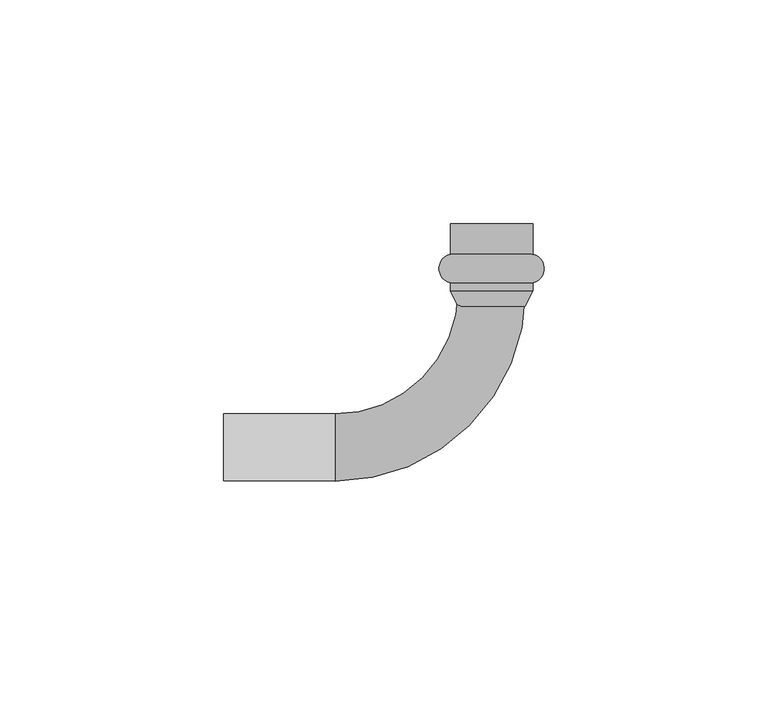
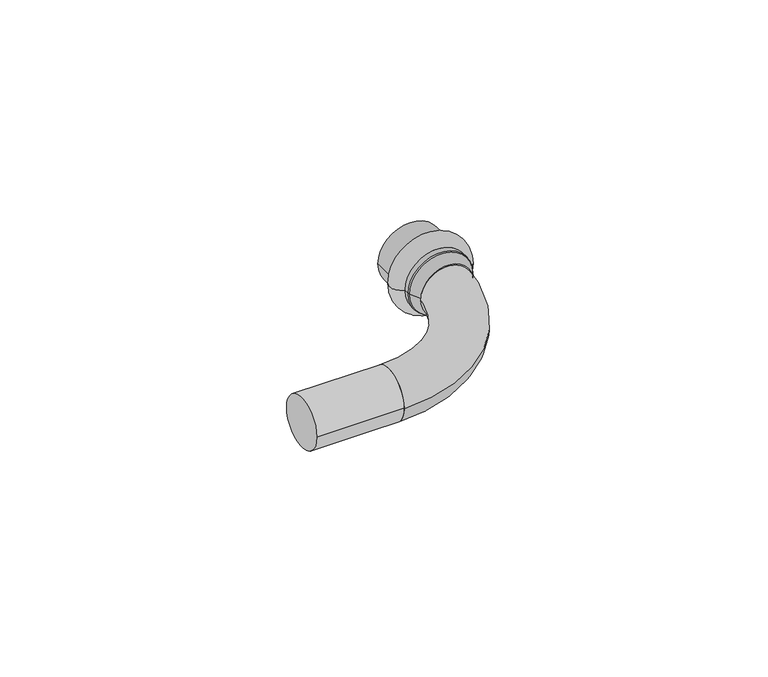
"""IFC4 building model written with IfcOpenShell, lengths in millimetres: pipe fitting geometry, VALTEC_VTi.950.I_Угольник 90° (раструб–труба) нержавеющая сталь : VTi.950.I."""

from ifc_helpers import new_model, si_unit, point, frame, origin, origin_2d, place, context, project, spatial, polyline, circle_curve, ellipse_curve, trimmed, segment, composite_curve, outline, extrude, source, transform, mapped, element, save
from ifc_brep_helpers import plane_surface, cylinder_surface, revolved_surface, advanced_brep


def pipe_fitting_c6080890(model_context):
    return source(origin(), model_context, "Body", "SolidModel", [
        advanced_brep(
        [(-9.25, 43.1122777, 0.0), (9.25, 43.1122777, 0.0), (9.25, 36.7877223, 0.0), (-9.25, 36.7877223, 0.0), (-9.25, 50.0, 0.0), (9.25, 50.0, 0.0), (-7.5, 50.0, 0.0), (7.5, 50.0, 0.0), (-7.5, 35.0, 0.0), (7.5, 35.0, 0.0), (-9.25, 35.0, 0.0), (9.25, 35.0, 0.0)],
        [
            (0, 1, circle_curve(frame((0.0, 43.1122777, 0.0), z_axis=(0.0, -1.0, 0.0), x_axis=(1.0, 0.0, 0.0)), 9.25)),
            (1, 2, circle_curve(frame((8.5, 39.95, 0.0), z_axis=(0.0, 0.0, -1.0), x_axis=(0.0, -1.0, 0.0)), 3.25)),
            (2, 3, circle_curve(frame((0.0, 36.7877223, 0.0), z_axis=(0.0, 1.0, 0.0), x_axis=(1.0, 0.0, 0.0)), 9.25)),
            (3, 0, circle_curve(frame((-8.5, 39.95, 0.0), z_axis=(0.0, 0.0, -1.0), x_axis=(0.0, -1.0, 0.0)), 3.25)),
            (1, 0, circle_curve(frame((0.0, 43.1122777, 0.0), z_axis=(0.0, -1.0, 0.0), x_axis=(1.0, 0.0, 0.0)), 9.25)),
            (3, 2, circle_curve(frame((0.0, 36.7877223, 0.0), z_axis=(0.0, 1.0, 0.0), x_axis=(1.0, 0.0, 0.0)), 9.25)),
            (4, 5, circle_curve(frame((0.0, 50.0, 0.0), z_axis=(0.0, -1.0, 0.0), x_axis=(1.0, 0.0, 0.0)), 9.25)),
            (5, 1),
            (0, 4),
            (5, 4, circle_curve(frame((0.0, 50.0, 0.0), z_axis=(0.0, -1.0, 0.0), x_axis=(1.0, 0.0, 0.0)), 9.25)),
            (6, 7, circle_curve(frame((0.0, 50.0, 0.0), z_axis=(0.0, -1.0, 0.0), x_axis=(1.0, 0.0, 0.0)), 7.5)),
            (7, 5),
            (4, 6),
            (7, 6, circle_curve(frame((0.0, 50.0, 0.0), z_axis=(0.0, -1.0, 0.0), x_axis=(1.0, 0.0, 0.0)), 7.5)),
            (8, 9, circle_curve(frame((0.0, 35.0, 0.0), z_axis=(0.0, -1.0, 0.0), x_axis=(1.0, 0.0, 0.0)), 7.5)),
            (9, 7),
            (6, 8),
            (9, 8, circle_curve(frame((0.0, 35.0, 0.0), z_axis=(0.0, -1.0, 0.0), x_axis=(1.0, 0.0, 0.0)), 7.5)),
            (10, 11, circle_curve(frame((0.0, 35.0, 0.0), z_axis=(0.0, -1.0, 0.0), x_axis=(1.0, 0.0, 0.0)), 9.25)),
            (11, 9),
            (8, 10),
            (11, 10, circle_curve(frame((0.0, 35.0, 0.0), z_axis=(0.0, -1.0, 0.0), x_axis=(1.0, 0.0, 0.0)), 9.25)),
            (2, 11),
            (10, 3),
        ],
        [
            revolved_surface(trimmed(ellipse_curve(frame((8.5, 39.95, 0.0), z_axis=(0.0, 0.0, 1.0), x_axis=(0.0, -1.0, 0.0)), 3.25, 3.25), [point((9.25, 36.7877223, 0.0))], [point((9.25, 43.1122777, 0.0))], True, "CARTESIAN"), (0.0, 53.5364426, 0.0), (0.0, 1.0, 0.0)),
            cylinder_surface(frame((0.0, 53.5364426, 0.0), z_axis=(0.0, 1.0, 0.0), x_axis=(1.0, 0.0, 0.0)), 9.25),
            plane_surface(frame((0.0, 50.0, 0.0), z_axis=(0.0, 1.0, 0.0), x_axis=(1.0, 0.0, 0.0))),
            revolved_surface(polyline([(7.5, 50.0, 0.0), (7.5, 35.0, 0.0)]), (0.0, 53.5364426, 0.0), (0.0, 1.0, 0.0)),
            plane_surface(frame((0.0, 35.0, 0.0), z_axis=(0.0, -1.0, 0.0), x_axis=(1.0, 0.0, 0.0))),
        ],
        [
            (0, [[1, 2, 3, 4]]),
            (0, [[5, -4, 6, -2]]),
            (1, [[7, 8, -1, 9]]),
            (1, [[10, -9, -5, -8]]),
            (2, [[11, 12, -7, 13]]),
            (2, [[14, -13, -10, -12]]),
            (3, [[15, 16, -11, 17]]),
            (3, [[18, -17, -14, -16]]),
            (4, [[19, 20, -15, 21]]),
            (4, [[22, -21, -18, -20]]),
            (1, [[-3, 23, -19, 24]]),
            (1, [[-6, -24, -22, -23]]),
        ],
    ),
        extrude(outline(composite_curve([segment(trimmed(circle_curve(origin_2d(), 7.5), [point((-7.5, 0.0))], [point((7.5, 0.0))], False, "CARTESIAN"), True, "CONTINUOUS"), segment(trimmed(circle_curve(origin_2d(), 7.5), [point((7.5, 0.0))], [point((-7.5, 0.0))], False, "CARTESIAN"), True, "CONTINUOUS")], self_intersect=False)), frame((-60.0, 0.0, 0.0), z_axis=(1.0, 0.0, 0.0), x_axis=(0.0, 1.0, 0.0)), (0.0, 0.0, 1.0), 25.0),
        advanced_brep(
        [(-9.25, 35.0, 0.0), (9.25, 35.0, 0.0), (-7.5, 31.5, 0.0), (7.5, 31.5, 0.0)],
        [
            (0, 1, circle_curve(frame((0.0, 35.0, 0.0), z_axis=(0.0, 1.0, 0.0), x_axis=(-1.0, 0.0, 0.0)), 9.25)),
            (1, 0, circle_curve(frame((0.0, 35.0, 0.0), z_axis=(0.0, 1.0, 0.0), x_axis=(1.0, 0.0, 0.0)), 9.25)),
            (2, 3, circle_curve(frame((0.0, 31.5, 0.0), z_axis=(0.0, -1.0, 0.0), x_axis=(1.0, 0.0, 0.0)), 7.5)),
            (3, 2, circle_curve(frame((0.0, 31.5, 0.0), z_axis=(0.0, -1.0, 0.0), x_axis=(-1.0, 0.0, 0.0)), 7.5)),
            (2, 0),
            (1, 3),
        ],
        [
            plane_surface(frame((0.0, 35.0, 0.0), z_axis=(0.0, 1.0, 0.0), x_axis=(0.0, 0.0, -1.0))),
            plane_surface(frame((0.0, 31.5, 0.0), z_axis=(0.0, -1.0, 0.0), x_axis=(0.0, 0.0, -1.0))),
            revolved_surface(polyline([(-7.5, 31.5, 0.0), (-9.25, 35.0, 0.0)]), (0.0, 16.5, 0.0), (0.0, 1.0, 0.0)),
            revolved_surface(polyline([(7.5, 31.5, 0.0), (9.25, 35.0, 0.0)]), (0.0, 16.5, 0.0), (0.0, 1.0, 0.0)),
        ],
        [
            (0, [[1, 2]]),
            (1, [[3, 4]]),
            (2, [[-3, 5, -2, 6]]),
            (3, [[-4, -6, -1, -5]]),
        ],
    ),
        advanced_brep(
        [(-35.0, -7.5551605, 0.0), (-35.0, 7.4448395, 0.0), (7.5551605, 35.0, 0.0), (-7.4448395, 35.0, 0.0)],
        [
            (0, 1, circle_curve(frame((-35.0, -0.0551605, 0.0), z_axis=(-1.0, 0.0, 0.0), x_axis=(0.0, 1.0, 0.0)), 7.5)),
            (1, 0, circle_curve(frame((-35.0, -0.0551605, 0.0), z_axis=(-1.0, 0.0, 0.0), x_axis=(0.0, 1.0, 0.0)), 7.5)),
            (2, 3, circle_curve(frame((0.0551605, 35.0, 0.0), z_axis=(0.0, 1.0, 0.0), x_axis=(-1.0, 0.0, 0.0)), 7.5)),
            (3, 2, circle_curve(frame((0.0551605, 35.0, 0.0), z_axis=(0.0, 1.0, 0.0), x_axis=(-1.0, 0.0, 0.0)), 7.5)),
            (3, 1, circle_curve(frame((-35.0, 35.0, 0.0), z_axis=(0.0, 0.0, -1.0), x_axis=(0.0, -1.0, 0.0)), 27.5551605)),
            (0, 2, circle_curve(frame((-35.0, 35.0, 0.0), z_axis=(0.0, 0.0, 1.0), x_axis=(0.0, -1.0, 0.0)), 42.5551605)),
        ],
        [
            plane_surface(frame((-35.0, 0.0, 0.0), z_axis=(-1.0, 0.0, 0.0), x_axis=(0.0, 0.0, 1.0))),
            plane_surface(frame((0.0, 35.0, 0.0), z_axis=(0.0, 1.0, 0.0), x_axis=(0.0, 0.0, 1.0))),
            revolved_surface(trimmed(ellipse_curve(frame((-35.0, -0.0551605, 0.0), z_axis=(-1.0, 0.0, 0.0), x_axis=(0.0, 1.0, 0.0)), 7.5, 7.5), [point((-35.0, -7.5551605, 0.0))], [point((-35.0, 7.4448395, 0.0))], True, "CARTESIAN"), (-35.0, 35.0, 0.0), (0.0, 0.0, 1.0)),
            revolved_surface(trimmed(ellipse_curve(frame((-35.0, -0.0551605, 0.0), z_axis=(-1.0, 0.0, 0.0), x_axis=(0.0, 1.0, 0.0)), 7.5, 7.5), [point((-35.0, 7.4448395, 0.0))], [point((-35.0, -7.5551605, 0.0))], True, "CARTESIAN"), (-35.0, 35.0, 0.0), (0.0, 0.0, 1.0)),
        ],
        [
            (0, [[1, 2]]),
            (1, [[3, 4]]),
            (2, [[5, -1, 6, -4]]),
            (3, [[-6, -2, -5, -3]]),
        ],
    ),
    ])


if __name__ == "__main__":
    model = new_model("IFC4")
    model_context = context("Model", 3, world=origin())
    ifc_project = project(units=[si_unit("LENGTHUNIT", "METRE", prefix="MILLI")], contexts=[model_context])
    site = spatial("IfcSite", under=ifc_project)
    building = spatial("IfcBuilding", under=site)
    placement = place(None, origin())
    pipe_fitting_shape = pipe_fitting_c6080890(model_context)
    element("IfcPipeFitting", 1, ObjectType="VALTEC_VTi.950.I_Угольник 90° (раструб–труба) нержавеющая сталь : VTi.950.I", at=placement, inside=building, context=model_context, shape_type="MappedRepresentation", body=[
        mapped(pipe_fitting_shape, transform((0.0, 0.0, 0.0), x_axis=(1.0, 0.0, 0.0), y_axis=(0.0, 1.0, 0.0), z_axis=(0.0, 0.0, 1.0))),
    ])
    save(model, "model.ifc")
